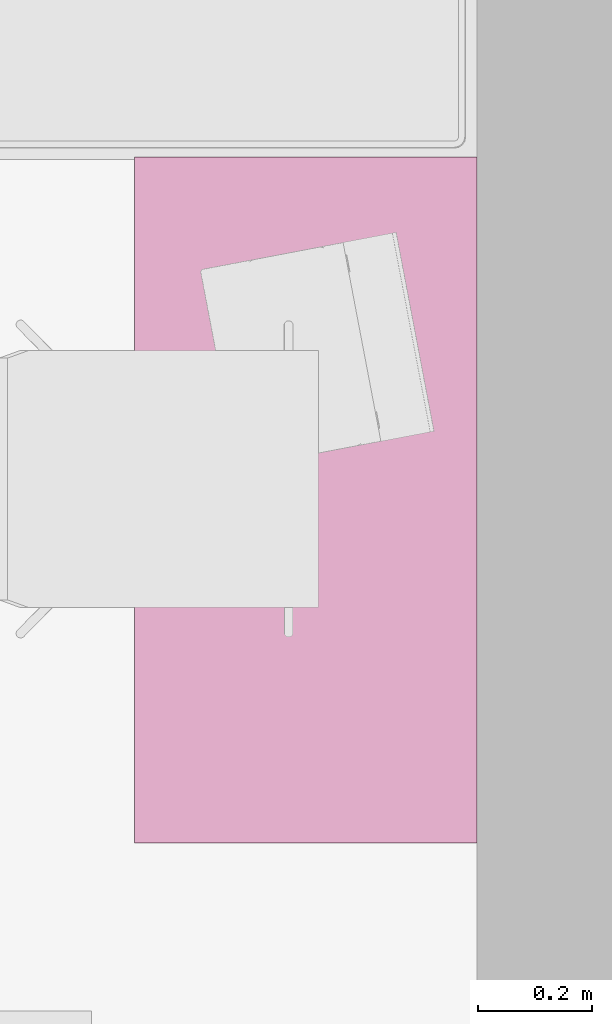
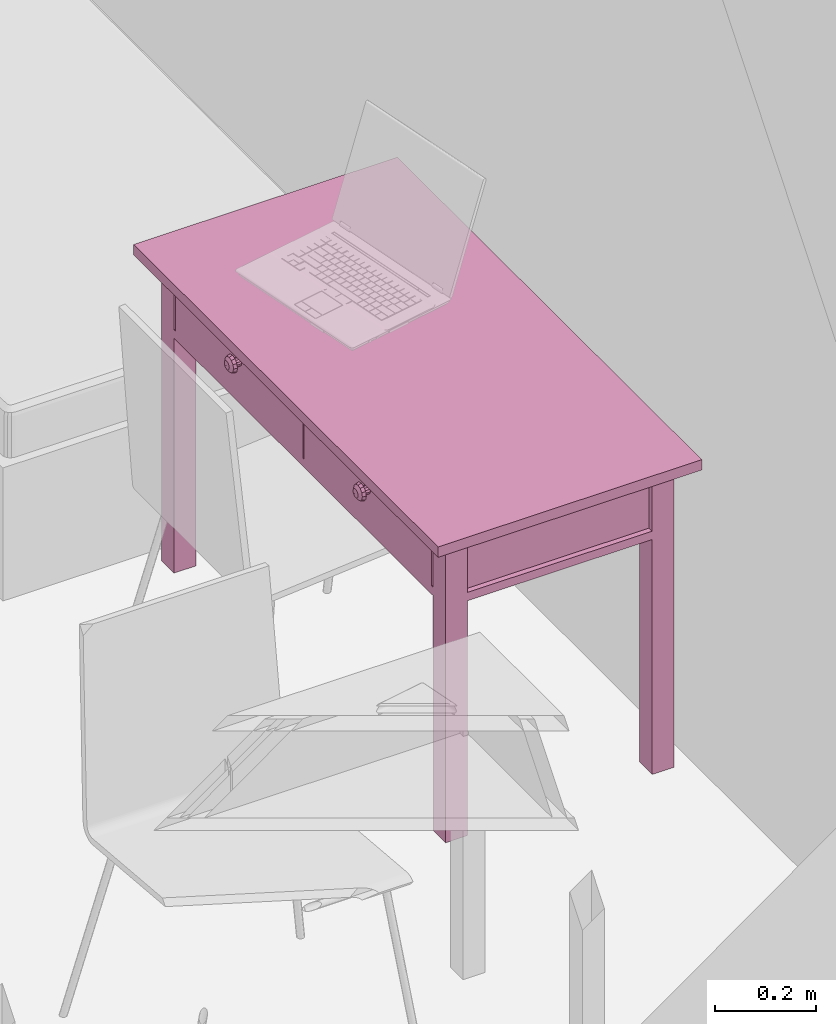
# One storey, part 101 of 165: 1 furnishing.
"""IFC2X3 building model written with IfcOpenShell, lengths in millimetres."""

from ifc_helpers import new_model, entity, si_unit, converted_unit, money_unit, direction, frame, origin_with_axes, place, context, subcontext, project, spatial, faceted_brep, source, transform, mapped, material, material_list, type_object, element, save


model = new_model("IFC2X3")

# Units and contexts
model_context = context("Model", 3, precision=1e-05, world=origin_with_axes(), true_north=direction((0.0, 1.0)))
body_context = subcontext(model_context, "Body", "Model", "MODEL_VIEW")
ifc_project = project(units=[si_unit("LENGTHUNIT", "METRE", prefix="MILLI"), si_unit("AREAUNIT", "SQUARE_METRE"), si_unit("VOLUMEUNIT", "CUBIC_METRE"), converted_unit("PLANEANGLEUNIT", "DEGREE", entity("IfcPlaneAngleMeasure", 0.0174532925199), si_unit("PLANEANGLEUNIT", "RADIAN"), dimensions=[0, 0, 0, 0, 0, 0, 0]), si_unit("SOLIDANGLEUNIT", "STERADIAN"), money_unit("USD"), converted_unit("TIMEUNIT", "Year", entity("IfcTimeMeasure", 31556926.0), si_unit("TIMEUNIT", "SECOND"), dimensions=[0, 0, 0, 0, 0, 0, 0]), si_unit("MASSUNIT", "GRAM"), si_unit("THERMODYNAMICTEMPERATUREUNIT", "DEGREE_CELSIUS"), si_unit("LUMINOUSINTENSITYUNIT", "LUMEN")], contexts=[model_context])

# Site, building, storey
site_placement = place(None, origin_with_axes())
site = spatial("IfcSite", under=ifc_project, at=site_placement, Name="Site", CompositionType="ELEMENT")
building_placement = place(site_placement, origin_with_axes())
building = spatial("IfcBuilding", under=site, at=building_placement, Name="Building", CompositionType="ELEMENT")
storey_placement = place(building_placement, frame((0.0, 0.0, 6300.0), z_axis=(0.0, 0.0, 1.0), x_axis=(1.0, 0.0, 0.0)))
storey = spatial("IfcBuildingStorey", under=building, at=storey_placement, Name="4KORRUS", CompositionType="ELEMENT", Elevation=6300.0)

# Furnishing
ifc_material = material(Name="Background")
ifc_material_list = material_list([ifc_material])
furnishing_element_type = type_object("IfcFurnishingElementType", Name="Rectangular Table 01 19")
shared_shape = source(origin_with_axes(), body_context, "Body", "Brep", [
    faceted_brep([(90.0, 40.0, 0.0), (40.0, 40.0, 0.0), (40.0, 90.0, 0.0), (90.0, 90.0, 0.0), (90.0, 40.0, 725.0), (40.0, 40.0, 725.0), (40.0, 90.0, 725.0), (90.0, 90.0, 725.0)], [[[0, 1, 2, 3]], [[1, 0, 4, 5]], [[2, 1, 5, 6]], [[3, 2, 6, 7]], [[0, 3, 7, 4]], [[5, 4, 7, 6]]]),
    faceted_brep([(1160.0, 40.0, 0.0), (1110.0, 40.0, 0.0), (1110.0, 90.0, 0.0), (1160.0, 90.0, 0.0), (1160.0, 40.0, 725.0), (1110.0, 40.0, 725.0), (1110.0, 90.0, 725.0), (1160.0, 90.0, 725.0)], [[[0, 1, 2, 3]], [[1, 0, 4, 5]], [[2, 1, 5, 6]], [[3, 2, 6, 7]], [[0, 3, 7, 4]], [[5, 4, 7, 6]]]),
    faceted_brep([(90.0, 510.0, 0.0), (40.0, 510.0, 0.0), (40.0, 560.0, 0.0), (90.0, 560.0, 0.0), (90.0, 510.0, 725.0), (40.0, 510.0, 725.0), (40.0, 560.0, 725.0), (90.0, 560.0, 725.0)], [[[0, 1, 2, 3]], [[1, 0, 4, 5]], [[2, 1, 5, 6]], [[3, 2, 6, 7]], [[0, 3, 7, 4]], [[5, 4, 7, 6]]]),
    faceted_brep([(1160.0, 510.0, 0.0), (1110.0, 510.0, 0.0), (1110.0, 560.0, 0.0), (1160.0, 560.0, 0.0), (1160.0, 510.0, 725.0), (1110.0, 510.0, 725.0), (1110.0, 560.0, 725.0), (1160.0, 560.0, 725.0)], [[[0, 1, 2, 3]], [[1, 0, 4, 5]], [[2, 1, 5, 6]], [[3, 2, 6, 7]], [[0, 3, 7, 4]], [[5, 4, 7, 6]]]),
    faceted_brep([(1160.0, 40.0, 565.0), (40.0, 40.0, 565.0), (40.0, 560.0, 565.0), (1160.0, 560.0, 565.0), (1160.0, 40.0, 585.0), (40.0, 40.0, 585.0), (40.0, 560.0, 585.0), (1160.0, 560.0, 585.0)], [[[0, 1, 2, 3]], [[1, 0, 4, 5]], [[2, 1, 5, 6]], [[3, 2, 6, 7]], [[0, 3, 7, 4]], [[5, 4, 7, 6]]]),
    faceted_brep([(1110.0, 52.5, 585.0), (90.0, 52.5, 585.0), (90.0, 77.5, 585.0), (1110.0, 77.5, 585.0), (1110.0, 52.5, 745.0), (90.0, 52.5, 745.0), (90.0, 77.5, 745.0), (1110.0, 77.5, 745.0)], [[[0, 1, 2, 3]], [[1, 0, 4, 5]], [[2, 1, 5, 6]], [[3, 2, 6, 7]], [[0, 3, 7, 4]], [[5, 4, 7, 6]]]),
    faceted_brep([(77.5, 90.0, 585.0), (52.5, 90.0, 585.0), (52.5, 510.0, 585.0), (77.5, 510.0, 585.0), (77.5, 90.0, 745.0), (52.5, 90.0, 745.0), (52.5, 510.0, 745.0), (77.5, 510.0, 745.0)], [[[0, 1, 2, 3]], [[1, 0, 4, 5]], [[2, 1, 5, 6]], [[3, 2, 6, 7]], [[0, 3, 7, 4]], [[5, 4, 7, 6]]]),
    faceted_brep([(90.0, 547.5, 585.0), (1110.0, 547.5, 585.0), (1110.0, 522.5, 585.0), (90.0, 522.5, 585.0), (90.0, 547.5, 745.0), (1110.0, 547.5, 745.0), (1110.0, 522.5, 745.0), (90.0, 522.5, 745.0)], [[[0, 1, 2, 3]], [[1, 0, 4, 5]], [[2, 1, 5, 6]], [[3, 2, 6, 7]], [[0, 3, 7, 4]], [[5, 4, 7, 6]]]),
    faceted_brep([(1122.5, 510.0, 585.0), (1147.5, 510.0, 585.0), (1147.5, 90.0, 585.0), (1122.5, 90.0, 585.0), (1122.5, 510.0, 745.0), (1147.5, 510.0, 745.0), (1147.5, 90.0, 745.0), (1122.5, 90.0, 745.0)], [[[0, 1, 2, 3]], [[1, 0, 4, 5]], [[2, 1, 5, 6]], [[3, 2, 6, 7]], [[0, 3, 7, 4]], [[5, 4, 7, 6]]]),
    faceted_brep([(597.5, 40.0, 585.0), (95.0, 40.0, 585.0), (95.0, 60.0, 585.0), (597.5, 60.0, 585.0), (597.5, 40.0, 745.0), (95.0, 40.0, 745.0), (95.0, 60.0, 745.0), (597.5, 60.0, 745.0)], [[[0, 1, 2, 3]], [[1, 0, 4, 5]], [[2, 1, 5, 6]], [[3, 2, 6, 7]], [[0, 3, 7, 4]], [[5, 4, 7, 6]]]),
    faceted_brep([(1105.0, 40.0, 585.0), (602.5, 40.0, 585.0), (602.5, 60.0, 585.0), (1105.0, 60.0, 585.0), (1105.0, 40.0, 745.0), (602.5, 40.0, 745.0), (602.5, 60.0, 745.0), (1105.0, 60.0, 745.0)], [[[0, 1, 2, 3]], [[1, 0, 4, 5]], [[2, 1, 5, 6]], [[3, 2, 6, 7]], [[0, 3, 7, 4]], [[5, 4, 7, 6]]]),
    faceted_brep([(354.91, 40.0, 660.0), (351.25, 40.0, 656.34), (346.25, 40.0, 655.0), (341.25, 40.0, 656.34), (337.59, 40.0, 660.0), (336.25, 40.0, 665.0), (337.59, 40.0, 670.0), (341.25, 40.0, 673.66), (346.25, 40.0, 675.0), (351.25, 40.0, 673.66), (354.91, 40.0, 670.0), (356.25, 40.0, 665.0), (354.91, 25.0, 660.0), (351.25, 25.0, 656.34), (346.25, 25.0, 655.0), (341.25, 25.0, 656.34), (337.59, 25.0, 660.0), (336.25, 25.0, 665.0), (337.59, 25.0, 670.0), (341.25, 25.0, 673.66), (346.25, 25.0, 675.0), (351.25, 25.0, 673.66), (354.91, 25.0, 670.0), (356.25, 25.0, 665.0)], [[[0, 1, 2, 3, 4, 5, 6, 7, 8, 9, 10, 11]], [[1, 0, 12, 13]], [[2, 1, 13, 14]], [[3, 2, 14, 15]], [[4, 3, 15, 16]], [[5, 4, 16, 17]], [[6, 5, 17, 18]], [[7, 6, 18, 19]], [[8, 7, 19, 20]], [[9, 8, 20, 21]], [[10, 9, 21, 22]], [[11, 10, 22, 23]], [[0, 11, 23, 12]], [[12, 23, 22, 21, 20, 19, 18, 17, 16, 15, 14, 13]]]),
    faceted_brep([(356.25, 12.01, 665.0), (346.25, 10.0, 665.0), (354.91, 12.01, 660.0), (354.91, 12.01, 670.0), (351.25, 12.01, 656.34), (363.571, 17.5, 665.0), (361.25, 17.5, 656.34), (351.25, 12.01, 673.66), (361.25, 17.5, 673.66), (346.25, 12.01, 655.0), (354.91, 17.5, 650.0), (366.25, 25.0, 665.0), (363.571, 25.0, 655.0), (346.25, 12.01, 675.0), (354.91, 17.5, 680.0), (363.571, 25.0, 675.0), (341.25, 12.01, 656.34), (346.25, 17.5, 647.679), (356.25, 25.0, 647.679), (346.25, 25.0, 645.0), (336.25, 25.0, 647.679), (328.929, 25.0, 655.0), (326.25, 25.0, 665.0), (328.929, 25.0, 675.0), (336.25, 25.0, 682.321), (346.25, 25.0, 685.0), (356.25, 25.0, 682.321), (341.25, 12.01, 673.66), (346.25, 17.5, 682.321), (337.59, 12.01, 660.0), (337.59, 17.5, 650.0), (331.25, 17.5, 656.34), (328.929, 17.5, 665.0), (331.25, 17.5, 673.66), (337.59, 17.5, 680.0), (337.59, 12.01, 670.0), (336.25, 12.01, 665.0)], [[[0, 1, 2]], [[3, 1, 0]], [[2, 1, 4]], [[5, 0, 2, 6]], [[7, 1, 3]], [[8, 3, 0, 5]], [[4, 1, 9]], [[6, 2, 4, 10]], [[11, 5, 6, 12]], [[13, 1, 7]], [[14, 7, 3, 8]], [[15, 8, 5, 11]], [[9, 1, 16]], [[10, 4, 9, 17]], [[12, 6, 10, 18]], [[12, 18, 19, 20, 21, 22, 23, 24, 25, 26, 15, 11]], [[27, 1, 13]], [[28, 13, 7, 14]], [[26, 14, 8, 15]], [[16, 1, 29]], [[17, 9, 16, 30]], [[18, 10, 17, 19]], [[19, 17, 30, 20]], [[20, 30, 31, 21]], [[21, 31, 32, 22]], [[22, 32, 33, 23]], [[23, 33, 34, 24]], [[24, 34, 28, 25]], [[25, 28, 14, 26]], [[35, 1, 27]], [[34, 27, 13, 28]], [[29, 1, 36]], [[30, 16, 29, 31]], [[31, 29, 36, 32]], [[32, 36, 35, 33]], [[33, 35, 27, 34]], [[36, 1, 35]]]),
    faceted_brep([(862.41, 40.0, 660.0), (858.75, 40.0, 656.34), (853.75, 40.0, 655.0), (848.75, 40.0, 656.34), (845.09, 40.0, 660.0), (843.75, 40.0, 665.0), (845.09, 40.0, 670.0), (848.75, 40.0, 673.66), (853.75, 40.0, 675.0), (858.75, 40.0, 673.66), (862.41, 40.0, 670.0), (863.75, 40.0, 665.0), (862.41, 25.0, 660.0), (858.75, 25.0, 656.34), (853.75, 25.0, 655.0), (848.75, 25.0, 656.34), (845.09, 25.0, 660.0), (843.75, 25.0, 665.0), (845.09, 25.0, 670.0), (848.75, 25.0, 673.66), (853.75, 25.0, 675.0), (858.75, 25.0, 673.66), (862.41, 25.0, 670.0), (863.75, 25.0, 665.0)], [[[0, 1, 2, 3, 4, 5, 6, 7, 8, 9, 10, 11]], [[1, 0, 12, 13]], [[2, 1, 13, 14]], [[3, 2, 14, 15]], [[4, 3, 15, 16]], [[5, 4, 16, 17]], [[6, 5, 17, 18]], [[7, 6, 18, 19]], [[8, 7, 19, 20]], [[9, 8, 20, 21]], [[10, 9, 21, 22]], [[11, 10, 22, 23]], [[0, 11, 23, 12]], [[12, 23, 22, 21, 20, 19, 18, 17, 16, 15, 14, 13]]]),
    faceted_brep([(863.75, 12.01, 665.0), (853.75, 10.0, 665.0), (862.41, 12.01, 660.0), (862.41, 12.01, 670.0), (858.75, 12.01, 656.34), (871.071, 17.5, 665.0), (868.75, 17.5, 656.34), (858.75, 12.01, 673.66), (868.75, 17.5, 673.66), (853.75, 12.01, 655.0), (862.41, 17.5, 650.0), (873.75, 25.0, 665.0), (871.071, 25.0, 655.0), (853.75, 12.01, 675.0), (862.41, 17.5, 680.0), (871.071, 25.0, 675.0), (848.75, 12.01, 656.34), (853.75, 17.5, 647.679), (863.75, 25.0, 647.679), (853.75, 25.0, 645.0), (843.75, 25.0, 647.679), (836.429, 25.0, 655.0), (833.75, 25.0, 665.0), (836.429, 25.0, 675.0), (843.75, 25.0, 682.321), (853.75, 25.0, 685.0), (863.75, 25.0, 682.321), (848.75, 12.01, 673.66), (853.75, 17.5, 682.321), (845.09, 12.01, 660.0), (845.09, 17.5, 650.0), (838.75, 17.5, 656.34), (836.429, 17.5, 665.0), (838.75, 17.5, 673.66), (845.09, 17.5, 680.0), (845.09, 12.01, 670.0), (843.75, 12.01, 665.0)], [[[0, 1, 2]], [[3, 1, 0]], [[2, 1, 4]], [[5, 0, 2, 6]], [[7, 1, 3]], [[8, 3, 0, 5]], [[4, 1, 9]], [[6, 2, 4, 10]], [[11, 5, 6, 12]], [[13, 1, 7]], [[14, 7, 3, 8]], [[15, 8, 5, 11]], [[9, 1, 16]], [[10, 4, 9, 17]], [[12, 6, 10, 18]], [[12, 18, 19, 20, 21, 22, 23, 24, 25, 26, 15, 11]], [[27, 1, 13]], [[28, 13, 7, 14]], [[26, 14, 8, 15]], [[16, 1, 29]], [[17, 9, 16, 30]], [[18, 10, 17, 19]], [[19, 17, 30, 20]], [[20, 30, 31, 21]], [[21, 31, 32, 22]], [[22, 32, 33, 23]], [[23, 33, 34, 24]], [[24, 34, 28, 25]], [[25, 28, 14, 26]], [[35, 1, 27]], [[34, 27, 13, 28]], [[29, 1, 36]], [[30, 16, 29, 31]], [[31, 29, 36, 32]], [[32, 36, 35, 33]], [[33, 35, 27, 34]], [[36, 1, 35]]]),
    faceted_brep([(1200.0, 0.0, 725.0), (0.0, 0.0, 725.0), (0.0, 600.0, 725.0), (1200.0, 600.0, 725.0), (1200.0, 0.0, 750.0), (0.0, 0.0, 750.0), (0.0, 600.0, 750.0), (1200.0, 600.0, 750.0)], [[[0, 1, 2, 3]], [[1, 0, 4, 5]], [[2, 1, 5, 6]], [[3, 2, 6, 7]], [[0, 3, 7, 4]], [[5, 4, 7, 6]]]),
])
furnishing_placement = place(storey_placement, frame((-18890.2967033, -17434.8573505, 0.0), z_axis=(0.0, 0.0, 1.0), x_axis=(0.0, -1.0, 0.0)))
element("IfcFurnishingElement", 1, at=furnishing_placement, inside=storey, type_object=furnishing_element_type, material=ifc_material_list, Name="FU - 011", context=body_context, shape_type="MappedRepresentation", body=[
    mapped(shared_shape, transform((0.0, 0.0, 0.0))),
])

save(model, "model.ifc")
